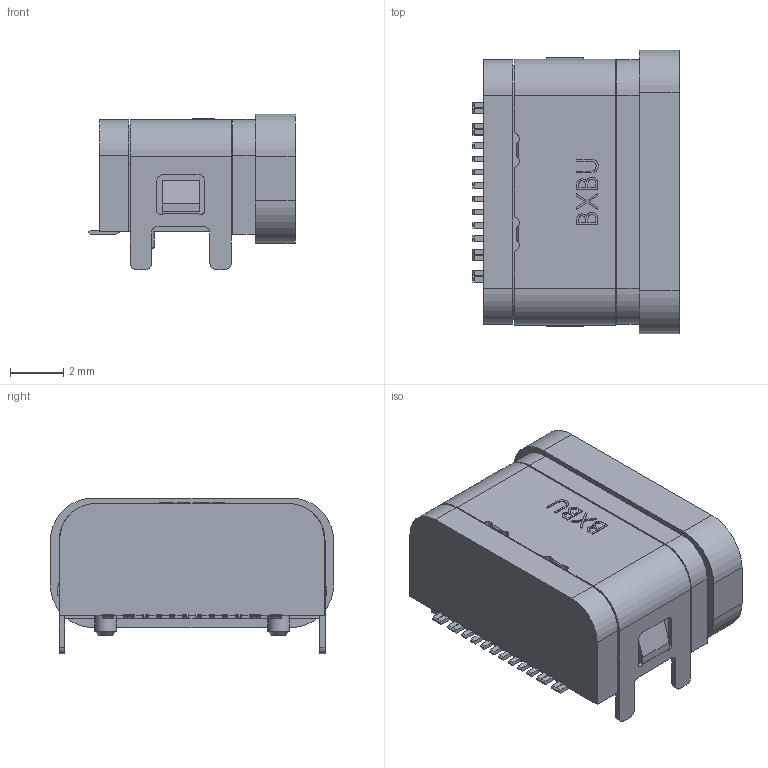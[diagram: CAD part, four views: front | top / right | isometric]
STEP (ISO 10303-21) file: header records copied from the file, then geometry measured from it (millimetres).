
FILE_DESCRIPTION (( 'STEP AP203' ), '1' );
FILE_NAME ('U5389-16PN7.05LF.STEP', '2026-09-22T05:50:15', ( '' ), ( '' ), 'SwSTEP 2.0', 'SolidWorks 2024', '' );
FILE_SCHEMA (( 'CONFIG_CONTROL_DESIGN' ));
Length unit declared in the file: millimetre
Products named in the file (4): U5389-16PN7.05LF; PRT0001; 01000; U5389-16PN7.05LF(2)
Assembly tree (3 placements, depth 3):
  U5389-16PN7.05LF
    U5389-16PN7.05LF(2)
      01000
      PRT0001
Bounding box: 7.75 x 10.64 x 5.85 mm (x, y, z)
Volume: 230.4 mm3; surface area: 714.8 mm2
Topology: 2 solids, 2 shells, 728 faces, 1973 edges, 1260 vertices
Faces by surface type: plane 535, cylinder 130, bspline 35, cone 28
Entity records: 24786 total; most frequent: CARTESIAN_POINT 6158, ORIENTED_EDGE 3946, DIRECTION 3549, EDGE_CURVE 1973, LINE 1569, VECTOR 1569, VERTEX_POINT 1260, AXIS2_PLACEMENT_3D 990
